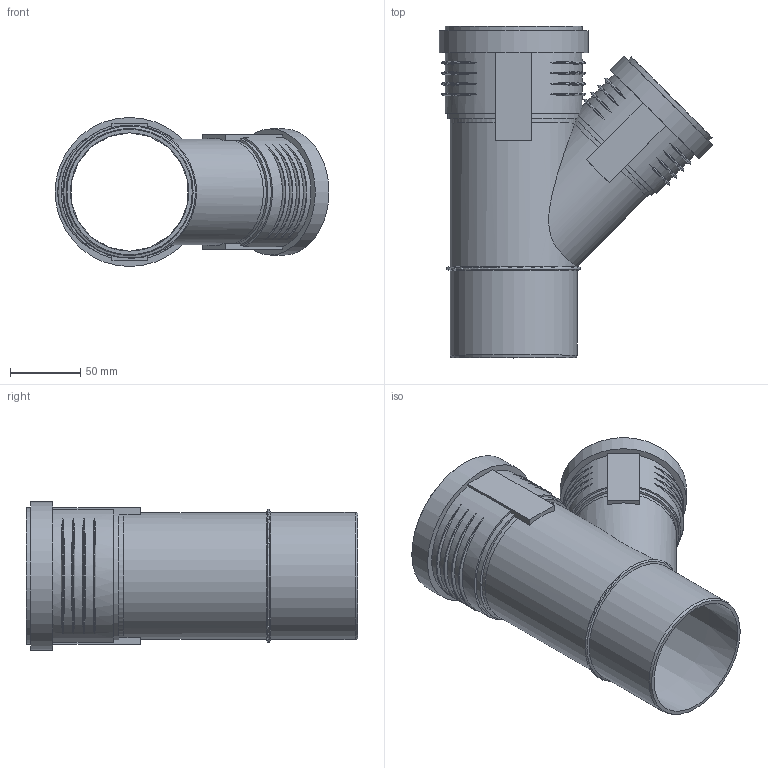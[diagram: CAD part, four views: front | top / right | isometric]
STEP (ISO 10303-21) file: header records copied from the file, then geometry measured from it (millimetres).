
FILE_DESCRIPTION(/* description */ (''),/* implementation_level */ '2;1');
FILE_NAME(/* name */ 'Z:\Geberit\Export\NewStep\390433.stp',/* time_stamp */ '2014-04-02T08:13:01+02:00',/* author */ ('ML'),/* organization */ (''),/* preprocessor_version */ 'ST-DEVELOPER v15.2',/* originating_system */ 'Autodesk Inventor 2014',/* authorisation */ '');
FILE_SCHEMA (('AUTOMOTIVE_DESIGN { 1 0 10303 214 3 1 1 }'));
Length unit declared in the file: millimetre
Products named in the file (4): 861343; 861402; 861403; 390433
Bounding box: 194.38 x 235.5 x 105.8 mm (x, y, z)
Volume: 283783.7 mm3; surface area: 201169.6 mm2
Topology: 3 solids, 3 shells, 125 faces, 305 edges, 212 vertices
Faces by surface type: torus 50, plane 37, cylinder 31, cone 7
Full cylindrical faces by diameter (mm): 70 x1, 70.2 x1, 75.2 x1, 76.2 x2, 81.2 x1, 84.2 x1, 84.6 x1, 89.6 x1, 90.2 x2, 91.2 x2, 97.2 x1, 99.8 x1, 105.8 x1
Entity records: 5215 total; most frequent: CARTESIAN_POINT 2271, ORIENTED_EDGE 548, DIRECTION 534, EDGE_CURVE 274, AXIS2_PLACEMENT_3D 231, VERTEX_POINT 205, EDGE_LOOP 183, STYLED_ITEM 125
